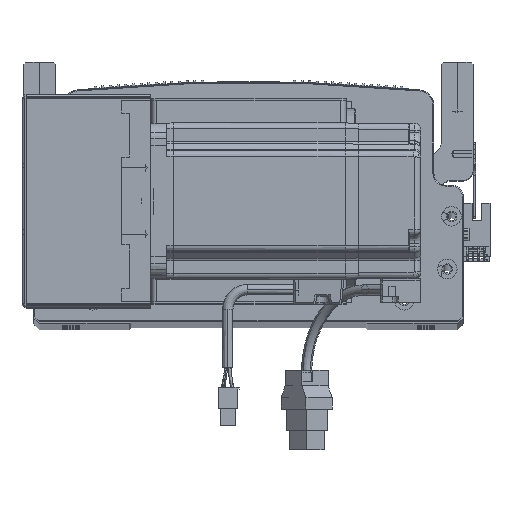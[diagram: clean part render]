
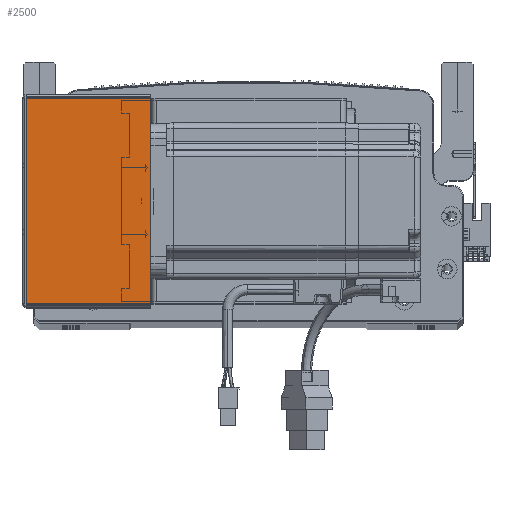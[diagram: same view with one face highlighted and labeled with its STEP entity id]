
A CAD part, top view. The second image highlights one B-rep face of the part: STEP entity #2500.
In plain terms, the highlighted planar face has unit normal (0, 0, 1) as drawn and (0, 0, -1) by its records, which use the part's own axes.
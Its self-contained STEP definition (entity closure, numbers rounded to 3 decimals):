
#2500 = ADVANCED_FACE ( 'NONE', ( #4131 ), #25683, .F. ) ;
#4131 = FACE_OUTER_BOUND ( 'NONE', #22844, .T. ) ;
#5982 = ORIENTED_EDGE ( 'NONE', *, *, #35030, .T. ) ;
#8431 = DIRECTION ( 'NONE',  ( 1., 0., 0. ) ) ;
#16976 = ORIENTED_EDGE ( 'NONE', *, *, #79453, .T. ) ;
#20334 = CARTESIAN_POINT ( 'NONE',  ( 0.737, 105.293, -205.5 ) ) ;
#20676 = VECTOR ( 'NONE', #8431, 1000. ) ;
#22347 = ORIENTED_EDGE ( 'NONE', *, *, #40436, .F. ) ;
#22844 = EDGE_LOOP ( 'NONE', ( #29410, #16976, #5982, #22347 ) ) ;
#23100 = VERTEX_POINT ( 'NONE', #31031 ) ;
#23187 = VERTEX_POINT ( 'NONE', #66286 ) ;
#25683 = PLANE ( 'NONE',  #75428 ) ;
#26277 = DIRECTION ( 'NONE',  ( 0., 0., 1. ) ) ;
#28653 = VECTOR ( 'NONE', #63491, 1000. ) ;
#29410 = ORIENTED_EDGE ( 'NONE', *, *, #90435, .F. ) ;
#29954 = DIRECTION ( 'NONE',  ( 1., 0., 0. ) ) ;
#31031 = CARTESIAN_POINT ( 'NONE',  ( 64.5, 0.707, -205.5 ) ) ;
#35030 = EDGE_CURVE ( 'NONE', #51965, #23100, #82368, .T. ) ;
#36119 = CARTESIAN_POINT ( 'NONE',  ( 0., 0.707, -205.5 ) ) ;
#36435 = CARTESIAN_POINT ( 'NONE',  ( 64.5, 105.293, -205.5 ) ) ;
#36609 = CARTESIAN_POINT ( 'NONE',  ( 0.737, 0., -205.5 ) ) ;
#40436 = EDGE_CURVE ( 'NONE', #23187, #23100, #58021, .T. ) ;
#42516 = VERTEX_POINT ( 'NONE', #20334 ) ;
#44841 = LINE ( 'NONE', #58367, #20676 ) ;
#49225 = VECTOR ( 'NONE', #85603, 1000. ) ;
#51965 = VERTEX_POINT ( 'NONE', #36435 ) ;
#56994 = VECTOR ( 'NONE', #29954, 1000. ) ;
#58021 = LINE ( 'NONE', #36119, #56994 ) ;
#58367 = CARTESIAN_POINT ( 'NONE',  ( 0., 105.293, -205.5 ) ) ;
#61247 = LINE ( 'NONE', #36609, #49225 ) ;
#63491 = DIRECTION ( 'NONE',  ( 0., -1., 0. ) ) ;
#66286 = CARTESIAN_POINT ( 'NONE',  ( 0.737, 0.707, -205.5 ) ) ;
#68281 = DIRECTION ( 'NONE',  ( 1., 0., 0. ) ) ;
#74987 = CARTESIAN_POINT ( 'NONE',  ( 0., 0., -205.5 ) ) ;
#75428 = AXIS2_PLACEMENT_3D ( 'NONE', #74987, #26277, #68281 ) ;
#79453 = EDGE_CURVE ( 'NONE', #42516, #51965, #44841, .T. ) ;
#82368 = LINE ( 'NONE', #89808, #28653 ) ;
#85603 = DIRECTION ( 'NONE',  ( 0., -1., 0. ) ) ;
#89808 = CARTESIAN_POINT ( 'NONE',  ( 64.5, 0., -205.5 ) ) ;
#90435 = EDGE_CURVE ( 'NONE', #42516, #23187, #61247, .T. ) ;
